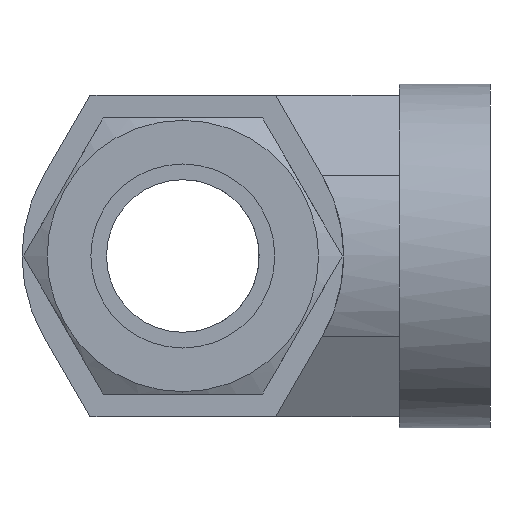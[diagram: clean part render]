
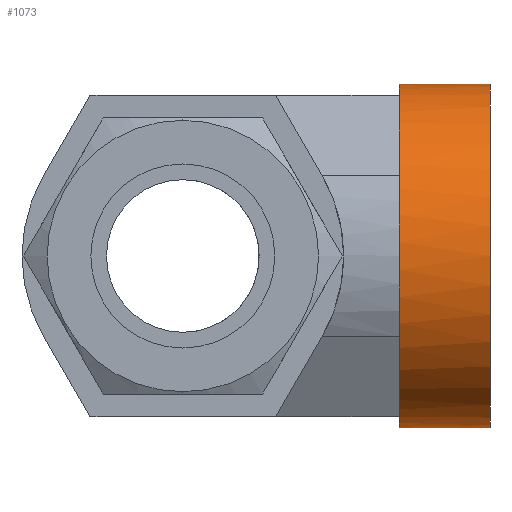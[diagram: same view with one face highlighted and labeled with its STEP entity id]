
A CAD part, left-side view. The second image highlights one B-rep face of the part: STEP entity #1073.
In plain terms, the highlighted cylindrical face has radius 17.8 mm (diameter 35.6 mm), a partial arc.
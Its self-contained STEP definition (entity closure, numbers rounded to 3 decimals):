
#35 = CIRCLE ( 'NONE', #40, 17.8 ) ;
#40 = AXIS2_PLACEMENT_3D ( 'NONE', #100, #99, #98 ) ;
#89 = DIRECTION ( 'NONE',  ( 0., 0., -1. ) ) ;
#90 = DIRECTION ( 'NONE',  ( 0., -1., 0. ) ) ;
#91 = CARTESIAN_POINT ( 'NONE',  ( 0., -22.4, 0. ) ) ;
#92 = AXIS2_PLACEMENT_3D ( 'NONE', #91, #90, #89 ) ;
#93 = CIRCLE ( 'NONE', #92, 17.8 ) ;
#95 = CARTESIAN_POINT ( 'NONE',  ( -11.272, -22.4, 13.776 ) ) ;
#96 = CARTESIAN_POINT ( 'NONE',  ( -6.294, -22.4, -16.65 ) ) ;
#97 = CARTESIAN_POINT ( 'NONE',  ( -11.272, -22.4, -13.776 ) ) ;
#98 = DIRECTION ( 'NONE',  ( 0., 0., -1. ) ) ;
#99 = DIRECTION ( 'NONE',  ( 0., -1., 0. ) ) ;
#100 = CARTESIAN_POINT ( 'NONE',  ( 0., -22.4, 0. ) ) ;
#584 = VERTEX_POINT ( 'NONE', #1631 ) ;
#586 = EDGE_CURVE ( 'NONE', #640, #584, #1630, .T. ) ;
#639 = VERTEX_POINT ( 'NONE', #1755 ) ;
#640 = VERTEX_POINT ( 'NONE', #1754 ) ;
#642 = EDGE_CURVE ( 'NONE', #639, #643, #1753, .T. ) ;
#643 = VERTEX_POINT ( 'NONE', #1819 ) ;
#1013 = EDGE_CURVE ( 'NONE', #1241, #1239, #2521, .T. ) ;
#1056 = ORIENTED_EDGE ( 'NONE', *, *, #1244, .T. ) ;
#1057 = ORIENTED_EDGE ( 'NONE', *, *, #1013, .T. ) ;
#1058 = ORIENTED_EDGE ( 'NONE', *, *, #1238, .T. ) ;
#1059 = ORIENTED_EDGE ( 'NONE', *, *, #1072, .T. ) ;
#1072 = EDGE_CURVE ( 'NONE', #1240, #643, #2580, .T. ) ;
#1073 = ADVANCED_FACE ( 'NONE', ( #2572 ), #2571, .T. ) ;
#1074 = EDGE_LOOP ( 'NONE', ( #1075, #1076, #1078, #1079, #1056, #1057, #1058, #1059 ) ) ;
#1075 = ORIENTED_EDGE ( 'NONE', *, *, #642, .F. ) ;
#1076 = ORIENTED_EDGE ( 'NONE', *, *, #1077, .F. ) ;
#1077 = EDGE_CURVE ( 'NONE', #640, #639, #2566, .T. ) ;
#1078 = ORIENTED_EDGE ( 'NONE', *, *, #586, .T. ) ;
#1079 = ORIENTED_EDGE ( 'NONE', *, *, #1082, .T. ) ;
#1082 = EDGE_CURVE ( 'NONE', #584, #1168, #2628, .T. ) ;
#1168 = VERTEX_POINT ( 'NONE', #2721 ) ;
#1238 = EDGE_CURVE ( 'NONE', #1239, #1240, #35, .T. ) ;
#1239 = VERTEX_POINT ( 'NONE', #97 ) ;
#1240 = VERTEX_POINT ( 'NONE', #96 ) ;
#1241 = VERTEX_POINT ( 'NONE', #95 ) ;
#1244 = EDGE_CURVE ( 'NONE', #1168, #1241, #93, .T. ) ;
#1627 = DIRECTION ( 'NONE',  ( 0., 1., 0. ) ) ;
#1628 = VECTOR ( 'NONE', #1627, 1000. ) ;
#1629 = CARTESIAN_POINT ( 'NONE',  ( 0., -31.8, 17.8 ) ) ;
#1630 = LINE ( 'NONE', #1629, #1628 ) ;
#1631 = CARTESIAN_POINT ( 'NONE',  ( 0., -22.4, 17.8 ) ) ;
#1750 = DIRECTION ( 'NONE',  ( 0., 1., 0. ) ) ;
#1751 = VECTOR ( 'NONE', #1750, 1000. ) ;
#1752 = CARTESIAN_POINT ( 'NONE',  ( 0., -31.8, -17.8 ) ) ;
#1753 = LINE ( 'NONE', #1752, #1751 ) ;
#1754 = CARTESIAN_POINT ( 'NONE',  ( 0., -31.8, 17.8 ) ) ;
#1755 = CARTESIAN_POINT ( 'NONE',  ( 0., -31.8, -17.8 ) ) ;
#1819 = CARTESIAN_POINT ( 'NONE',  ( 0., -22.4, -17.8 ) ) ;
#2518 = DIRECTION ( 'NONE',  ( 0., 0., -1. ) ) ;
#2519 = DIRECTION ( 'NONE',  ( 0., -1., 0. ) ) ;
#2520 = AXIS2_PLACEMENT_3D ( 'NONE', #2527, #2519, #2518 ) ;
#2521 = CIRCLE ( 'NONE', #2520, 17.8 ) ;
#2527 = CARTESIAN_POINT ( 'NONE',  ( 0., -22.4, 0. ) ) ;
#2564 = CARTESIAN_POINT ( 'NONE',  ( 0., -31.8, 0. ) ) ;
#2565 = AXIS2_PLACEMENT_3D ( 'NONE', #2564, #2630, #2629 ) ;
#2566 = CIRCLE ( 'NONE', #2565, 17.8 ) ;
#2567 = DIRECTION ( 'NONE',  ( 0., 0., 1. ) ) ;
#2568 = DIRECTION ( 'NONE',  ( 0., 1., 0. ) ) ;
#2569 = CARTESIAN_POINT ( 'NONE',  ( 0., -31.8, 0. ) ) ;
#2570 = AXIS2_PLACEMENT_3D ( 'NONE', #2569, #2568, #2567 ) ;
#2571 = CYLINDRICAL_SURFACE ( 'NONE', #2570, 17.8 ) ;
#2572 = FACE_OUTER_BOUND ( 'NONE', #1074, .T. ) ;
#2573 = DIRECTION ( 'NONE',  ( 0., 0., -1. ) ) ;
#2574 = DIRECTION ( 'NONE',  ( 0., -1., 0. ) ) ;
#2575 = CARTESIAN_POINT ( 'NONE',  ( 0., -22.4, 0. ) ) ;
#2576 = AXIS2_PLACEMENT_3D ( 'NONE', #2575, #2574, #2573 ) ;
#2580 = CIRCLE ( 'NONE', #2576, 17.8 ) ;
#2624 = DIRECTION ( 'NONE',  ( 0., 0., -1. ) ) ;
#2625 = DIRECTION ( 'NONE',  ( 0., -1., 0. ) ) ;
#2626 = CARTESIAN_POINT ( 'NONE',  ( 0., -22.4, 0. ) ) ;
#2627 = AXIS2_PLACEMENT_3D ( 'NONE', #2626, #2625, #2624 ) ;
#2628 = CIRCLE ( 'NONE', #2627, 17.8 ) ;
#2629 = DIRECTION ( 'NONE',  ( 0., 0., -1. ) ) ;
#2630 = DIRECTION ( 'NONE',  ( 0., -1., 0. ) ) ;
#2721 = CARTESIAN_POINT ( 'NONE',  ( -6.294, -22.4, 16.65 ) ) ;
